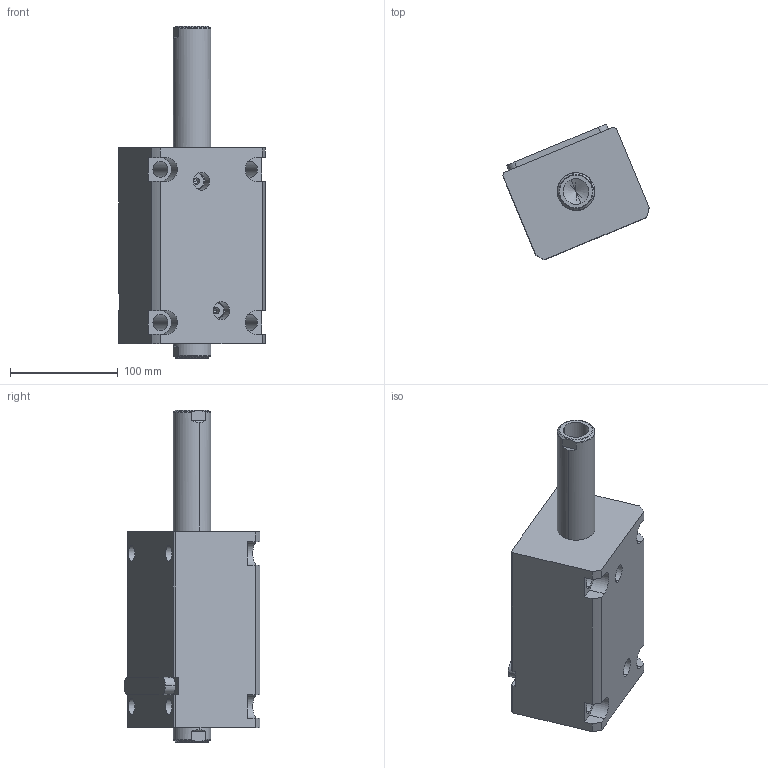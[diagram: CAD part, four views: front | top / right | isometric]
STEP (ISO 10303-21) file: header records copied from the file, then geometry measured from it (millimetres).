
FILE_DESCRIPTION (( 'STEP AP214' ), '1' );
FILE_NAME ('chtb-lw63x100n_asm.STEP', '2018-05-03T09:10:12', ( 'Windows' ), ( 'Microsoft' ), 'SwSTEP 2.0', 'SolidWorks 2015', '' );
FILE_SCHEMA (( 'AUTOMOTIVE_DESIGN' ));
Length unit declared in the file: millimetre
Products named in the file (5): CHTB-SW63X100NHSG; CHTB-LW63X100NBT; CHTB-LA63PJ; CHTB-63QG; chtb-lw63x100n_asm
Assembly tree (4 placements, depth 2):
  chtb-lw63x100n_asm
    CHTB-63QG
    CHTB-LA63PJ
    CHTB-LW63X100NBT
    CHTB-SW63X100NHSG
Bounding box: 135.77 x 126.06 x 308 mm (x, y, z)
Volume: 1648830.2 mm3; surface area: 212088.2 mm2
Topology: 4 solids, 4 shells, 194 faces, 563 edges, 381 vertices
Faces by surface type: cylinder 104, plane 50, cone 16, bspline 12, torus 12
Entity records: 18887 total; most frequent: CARTESIAN_POINT 13868, ORIENTED_EDGE 1110, DIRECTION 876, EDGE_CURVE 555, VERTEX_POINT 381, AXIS2_PLACEMENT_3D 336, EDGE_LOOP 222, LINE 204
